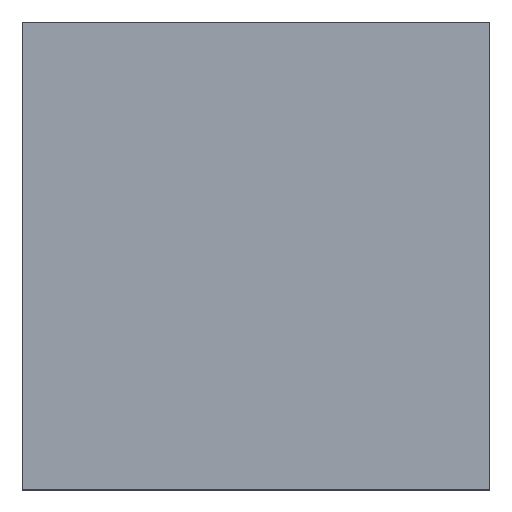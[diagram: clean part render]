
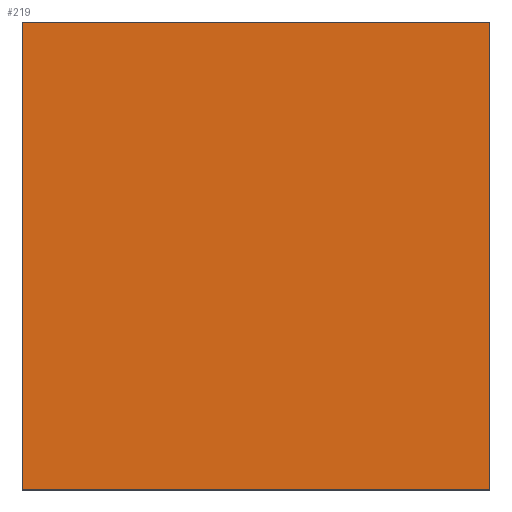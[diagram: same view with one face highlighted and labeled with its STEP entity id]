
A CAD part, top view. The second image highlights one B-rep face of the part: STEP entity #219.
In plain terms, the highlighted planar face has unit normal (0, 0, 1).
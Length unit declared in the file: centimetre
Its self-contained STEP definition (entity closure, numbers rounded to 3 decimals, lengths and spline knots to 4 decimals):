
#43 = VERTEX_POINT ( 'NONE', #568 ) ;
#44 = VECTOR ( 'NONE', #655, 100. ) ;
#56 = EDGE_CURVE ( 'NONE', #93, #289, #65, .T. ) ;
#65 = LINE ( 'NONE', #336, #373 ) ;
#67 = LINE ( 'NONE', #644, #44 ) ;
#68 = DIRECTION ( 'NONE',  ( 1., 0., 0. ) ) ;
#93 = VERTEX_POINT ( 'NONE', #551 ) ;
#129 = LINE ( 'NONE', #287, #364 ) ;
#130 = ORIENTED_EDGE ( 'NONE', *, *, #515, .T. ) ;
#134 = CARTESIAN_POINT ( 'NONE',  ( 0., 0., 1000. ) ) ;
#139 = EDGE_LOOP ( 'NONE', ( #280, #221, #130, #463 ) ) ;
#151 = DIRECTION ( 'NONE',  ( 0., -1., 0. ) ) ;
#191 = VERTEX_POINT ( 'NONE', #390 ) ;
#209 = LINE ( 'NONE', #581, #685 ) ;
#219 = ADVANCED_FACE ( 'NONE', ( #388 ), #376, .T. ) ;
#221 = ORIENTED_EDGE ( 'NONE', *, *, #298, .T. ) ;
#229 = CARTESIAN_POINT ( 'NONE',  ( 0., 1000., 1000. ) ) ;
#274 = DIRECTION ( 'NONE',  ( 1., 0., 0. ) ) ;
#280 = ORIENTED_EDGE ( 'NONE', *, *, #632, .T. ) ;
#284 = DIRECTION ( 'NONE',  ( 0., 0., 1. ) ) ;
#287 = CARTESIAN_POINT ( 'NONE',  ( 0., 0., 1000. ) ) ;
#289 = VERTEX_POINT ( 'NONE', #229 ) ;
#298 = EDGE_CURVE ( 'NONE', #191, #43, #129, .T. ) ;
#336 = CARTESIAN_POINT ( 'NONE',  ( 0., 1000., 1000. ) ) ;
#364 = VECTOR ( 'NONE', #68, 100. ) ;
#373 = VECTOR ( 'NONE', #605, 100. ) ;
#376 = PLANE ( 'NONE',  #628 ) ;
#388 = FACE_OUTER_BOUND ( 'NONE', #139, .T. ) ;
#390 = CARTESIAN_POINT ( 'NONE',  ( 0., 0., 1000. ) ) ;
#463 = ORIENTED_EDGE ( 'NONE', *, *, #56, .T. ) ;
#515 = EDGE_CURVE ( 'NONE', #43, #93, #67, .T. ) ;
#551 = CARTESIAN_POINT ( 'NONE',  ( 1000., 1000., 1000. ) ) ;
#568 = CARTESIAN_POINT ( 'NONE',  ( 1000., 0., 1000. ) ) ;
#581 = CARTESIAN_POINT ( 'NONE',  ( 0., 1000., 1000. ) ) ;
#605 = DIRECTION ( 'NONE',  ( -1., 0., 0. ) ) ;
#628 = AXIS2_PLACEMENT_3D ( 'NONE', #134, #284, #274 ) ;
#632 = EDGE_CURVE ( 'NONE', #289, #191, #209, .T. ) ;
#644 = CARTESIAN_POINT ( 'NONE',  ( 1000., 1000., 1000. ) ) ;
#655 = DIRECTION ( 'NONE',  ( 0., 1., 0. ) ) ;
#685 = VECTOR ( 'NONE', #151, 100. ) ;
